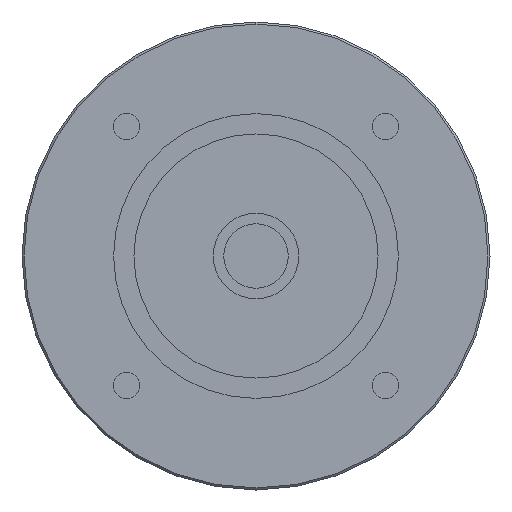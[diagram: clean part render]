
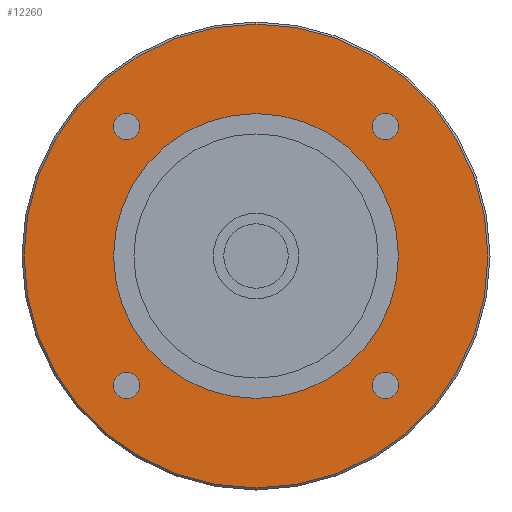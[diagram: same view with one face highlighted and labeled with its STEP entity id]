
A CAD part, left-side view. The second image highlights one B-rep face of the part: STEP entity #12260.
In plain terms, the highlighted planar face has unit normal (-1, 0, 0) as drawn and (0, 0, -1) by its records, which use the part's own axes.
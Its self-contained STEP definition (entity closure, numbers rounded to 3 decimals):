
#11090=CARTESIAN_POINT('',(0.,57.,-47.4));
#11100=VERTEX_POINT('',#11090);
#11130=CARTESIAN_POINT('',(0.,0.,
-47.4));
#11140=DIRECTION('',(0.,0.,-1.));
#11150=DIRECTION('',(1.,0.,0.));
#11160=AXIS2_PLACEMENT_3D('',#11130,#11140,#11150);
#11170=CIRCLE('',#11160,57.);
#11180=CARTESIAN_POINT('',(57.,0.,-47.4));
#11190=VERTEX_POINT('',#11180);
#11200=EDGE_CURVE('',#11100,#11190,#11170,.T.);
#11220=CARTESIAN_POINT('',(0.,-57.,-47.4));
#11230=VERTEX_POINT('',#11220);
#11240=EDGE_CURVE('',#11190,#11230,#11170,.T.);
#11400=CARTESIAN_POINT('',(0.,0.,
-47.4));
#11410=DIRECTION('',(0.,0.,-1.));
#11420=DIRECTION('',(1.,0.,0.));
#11430=AXIS2_PLACEMENT_3D('',#11400,#11410,#11420);
#11440=PLANE('',#11430);
#11450=CARTESIAN_POINT('',(-31.82,-31.82,-47.4));
#11460=DIRECTION('',(0.,0.,-1.));
#11470=DIRECTION('',(1.,0.,0.));
#11480=AXIS2_PLACEMENT_3D('',#11450,#11460,#11470);
#11490=CIRCLE('',#11480,3.25);
#11500=CARTESIAN_POINT('',(-28.57,-31.82,-47.4));
#11510=VERTEX_POINT('',#11500);
#11520=CARTESIAN_POINT('',(-35.07,-31.82,-47.4));
#11530=VERTEX_POINT('',#11520);
#11540=EDGE_CURVE('',#11510,#11530,#11490,.T.);
#11550=ORIENTED_EDGE('',*,*,#11540,.F.);
#11560=EDGE_CURVE('',#11530,#11510,#11490,.T.);
#11570=ORIENTED_EDGE('',*,*,#11560,.F.);
#11580=EDGE_LOOP('',(#11570,#11550));
#11590=FACE_BOUND('',#11580,.T.);
#11600=CARTESIAN_POINT('',(-31.82,31.82,-47.4));
#11610=DIRECTION('',(0.,0.,-1.));
#11620=DIRECTION('',(1.,0.,0.));
#11630=AXIS2_PLACEMENT_3D('',#11600,#11610,#11620);
#11640=CIRCLE('',#11630,3.25);
#11650=CARTESIAN_POINT('',(-28.57,31.82,-47.4));
#11660=VERTEX_POINT('',#11650);
#11670=CARTESIAN_POINT('',(-35.07,31.82,-47.4));
#11680=VERTEX_POINT('',#11670);
#11690=EDGE_CURVE('',#11660,#11680,#11640,.T.);
#11700=ORIENTED_EDGE('',*,*,#11690,.F.);
#11710=EDGE_CURVE('',#11680,#11660,#11640,.T.);
#11720=ORIENTED_EDGE('',*,*,#11710,.F.);
#11730=EDGE_LOOP('',(#11720,#11700));
#11740=FACE_BOUND('',#11730,.T.);
#11750=CARTESIAN_POINT('',(31.82,31.82,-47.4));
#11760=DIRECTION('',(0.,0.,-1.));
#11770=DIRECTION('',(1.,0.,0.));
#11780=AXIS2_PLACEMENT_3D('',#11750,#11760,#11770);
#11790=CIRCLE('',#11780,3.25);
#11800=CARTESIAN_POINT('',(35.07,31.82,-47.4));
#11810=VERTEX_POINT('',#11800);
#11820=CARTESIAN_POINT('',(28.57,31.82,-47.4));
#11830=VERTEX_POINT('',#11820);
#11840=EDGE_CURVE('',#11810,#11830,#11790,.T.);
#11850=ORIENTED_EDGE('',*,*,#11840,.F.);
#11860=EDGE_CURVE('',#11830,#11810,#11790,.T.);
#11870=ORIENTED_EDGE('',*,*,#11860,.F.);
#11880=EDGE_LOOP('',(#11870,#11850));
#11890=FACE_BOUND('',#11880,.T.);
#11900=CARTESIAN_POINT('',(31.82,-31.82,-47.4));
#11910=DIRECTION('',(0.,0.,-1.));
#11920=DIRECTION('',(1.,0.,0.));
#11930=AXIS2_PLACEMENT_3D('',#11900,#11910,#11920);
#11940=CIRCLE('',#11930,3.25);
#11950=CARTESIAN_POINT('',(35.07,-31.82,-47.4));
#11960=VERTEX_POINT('',#11950);
#11970=CARTESIAN_POINT('',(28.57,-31.82,-47.4));
#11980=VERTEX_POINT('',#11970);
#11990=EDGE_CURVE('',#11960,#11980,#11940,.T.);
#12000=ORIENTED_EDGE('',*,*,#11990,.F.);
#12010=EDGE_CURVE('',#11980,#11960,#11940,.T.);
#12020=ORIENTED_EDGE('',*,*,#12010,.F.);
#12030=EDGE_LOOP('',(#12020,#12000));
#12040=FACE_BOUND('',#12030,.T.);
#12050=EDGE_CURVE('',#11230,#11100,#11170,.T.);
#12060=ORIENTED_EDGE('',*,*,#12050,.T.);
#12070=ORIENTED_EDGE('',*,*,#11240,.T.);
#12080=ORIENTED_EDGE('',*,*,#11200,.T.);
#12090=EDGE_LOOP('',(#12080,#12070,#12060));
#12100=FACE_OUTER_BOUND('',#12090,.T.);
#12110=CARTESIAN_POINT('',(0.,0.,
-47.4));
#12120=DIRECTION('',(0.,0.,1.));
#12130=DIRECTION('',(1.,0.,0.));
#12140=AXIS2_PLACEMENT_3D('',#12110,#12120,#12130);
#12150=CIRCLE('',#12140,35.);
#12160=CARTESIAN_POINT('',(35.,0.,-47.4));
#12170=VERTEX_POINT('',#12160);
#12180=CARTESIAN_POINT('',(-35.,0.,-47.4));
#12190=VERTEX_POINT('',#12180);
#12200=EDGE_CURVE('',#12170,#12190,#12150,.T.);
#12210=ORIENTED_EDGE('',*,*,#12200,.T.);
#12220=EDGE_CURVE('',#12190,#12170,#12150,.T.);
#12230=ORIENTED_EDGE('',*,*,#12220,.T.);
#12240=EDGE_LOOP('',(#12230,#12210));
#12250=FACE_BOUND('',#12240,.T.);
#12260=ADVANCED_FACE('',(#11590,#11740,#11890,#12040,#12100,#12250),
#11440,.T.);
